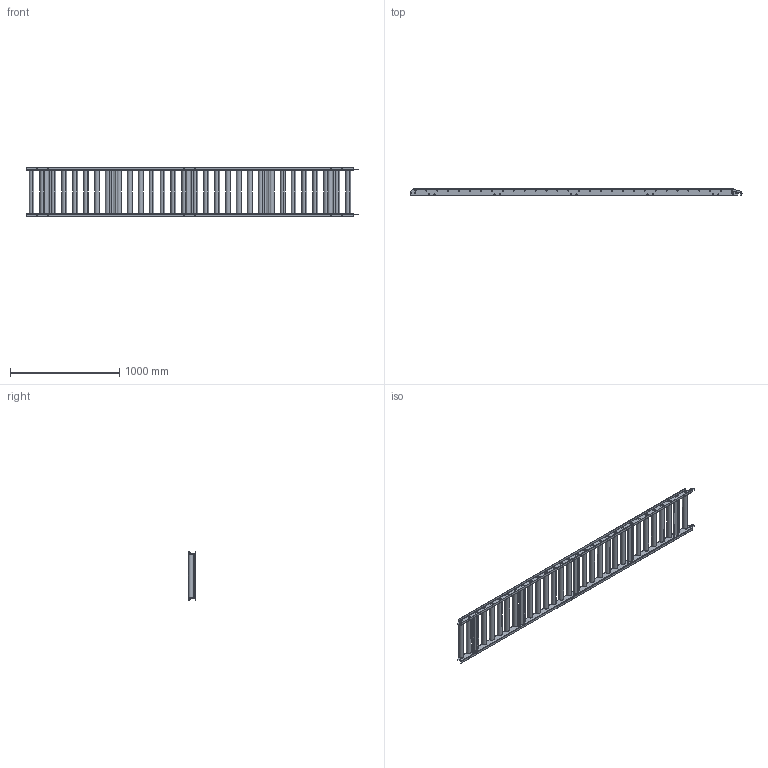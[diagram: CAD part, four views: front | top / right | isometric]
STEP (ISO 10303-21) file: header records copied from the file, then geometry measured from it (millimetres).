
FILE_DESCRIPTION (( 'STEP AP203' ), '1' );
FILE_NAME ('RAF-4515.step', '2024-02-26T06:38:37', ( '' ), ( '' ), 'SwSTEP 2.0', 'SolidWorks 2023', '' );
FILE_SCHEMA (( 'CONFIG_CONTROL_DESIGN' ));
Length unit declared in the file: millimetre
Products named in the file (1): RAF-4515
Bounding box: 3041 x 69.93 x 450 mm (x, y, z)
Volume: 21333193.4 mm3; surface area: 4110949.4 mm2
Topology: 149 solids, 149 shells, 2583 faces, 5715 edges, 3570 vertices
Faces by surface type: plane 982, cylinder 881, cone 600, torus 120
Entity records: 74784 total; most frequent: CARTESIAN_POINT 16767, DIRECTION 12501, ORIENTED_EDGE 11430, EDGE_CURVE 5715, AXIS2_PLACEMENT_3D 5176, VERTEX_POINT 3570, EDGE_LOOP 3111, CIRCLE 2592
